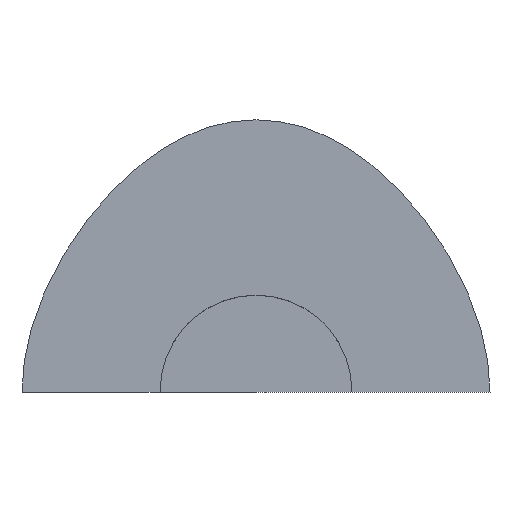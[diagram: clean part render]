
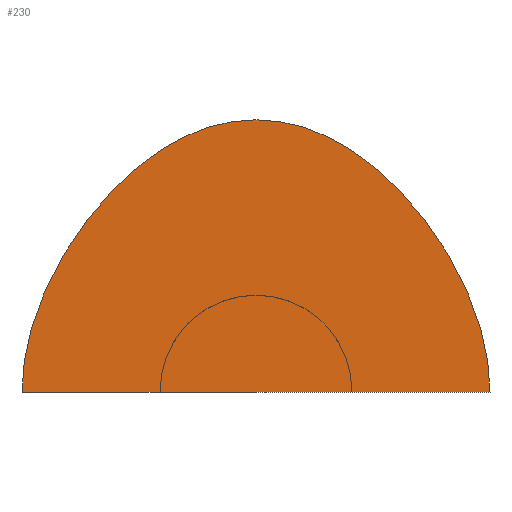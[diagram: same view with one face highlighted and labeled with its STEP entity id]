
A CAD part, top view. The second image highlights one B-rep face of the part: STEP entity #230.
In plain terms, the highlighted planar face has unit normal (0, 0, 1).
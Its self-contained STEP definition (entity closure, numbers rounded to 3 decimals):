
#193=CARTESIAN_POINT('Axis2P3D Location',(0.,57.708,0.)) ;
#198=CARTESIAN_POINT('Line Origine',(0.,0.,0.)) ;
#202=CARTESIAN_POINT('Vertex',(-122.,0.,0.)) ;
#204=CARTESIAN_POINT('Vertex',(122.,0.,0.)) ;
#208=CARTESIAN_POINT('Control Point',(0.,142.,0.)) ;
#209=CARTESIAN_POINT('Control Point',(37.442,142.,0.)) ;
#210=CARTESIAN_POINT('Control Point',(72.622,120.541,0.)) ;
#211=CARTESIAN_POINT('Control Point',(105.541,77.622,0.)) ;
#212=CARTESIAN_POINT('Control Point',(122.,37.442,0.)) ;
#213=CARTESIAN_POINT('Control Point',(122.,0.,0.)) ;
#214=CARTESIAN_POINT('Vertex',(0.,142.,0.)) ;
#218=CARTESIAN_POINT('Control Point',(0.,142.,0.)) ;
#219=CARTESIAN_POINT('Control Point',(-37.442,142.,0.)) ;
#220=CARTESIAN_POINT('Control Point',(-72.622,120.541,0.)) ;
#221=CARTESIAN_POINT('Control Point',(-105.541,77.622,0.)) ;
#222=CARTESIAN_POINT('Control Point',(-122.,37.442,0.)) ;
#223=CARTESIAN_POINT('Control Point',(-122.,0.,0.)) ;
#194=DIRECTION('Axis2P3D Direction',(0.,0.,1.)) ;
#195=DIRECTION('Axis2P3D XDirection',(1.,0.,0.)) ;
#199=DIRECTION('Vector Direction',(1.,0.,0.)) ;
#196=AXIS2_PLACEMENT_3D('Plane Axis2P3D',#193,#194,#195) ;
#226=ORIENTED_EDGE('',*,*,#206,.T.) ;
#227=ORIENTED_EDGE('',*,*,#216,.T.) ;
#228=ORIENTED_EDGE('',*,*,#224,.T.) ;
#200=VECTOR('Line Direction',#199,1.) ;
#230=ADVANCED_FACE('Fill.1',(#229),#197,.T.) ;
#207=B_SPLINE_CURVE_WITH_KNOTS('',5,(#208,#209,#210,#211,#212,#213),.UNSPECIFIED.,.F.,.U.,(6,6),(0.,187.211),.UNSPECIFIED.) ;
#217=B_SPLINE_CURVE_WITH_KNOTS('',5,(#218,#219,#220,#221,#222,#223),.UNSPECIFIED.,.F.,.U.,(6,6),(0.,187.211),.UNSPECIFIED.) ;
#206=EDGE_CURVE('',#203,#205,#201,.T.) ;
#216=EDGE_CURVE('',#205,#215,#207,.F.) ;
#224=EDGE_CURVE('',#215,#203,#217,.T.) ;
#225=EDGE_LOOP('',(#226,#227,#228)) ;
#229=FACE_OUTER_BOUND('',#225,.T.) ;
#201=LINE('Line',#198,#200) ;
#197=PLANE('',#196) ;
#203=VERTEX_POINT('',#202) ;
#205=VERTEX_POINT('',#204) ;
#215=VERTEX_POINT('',#214) ;
